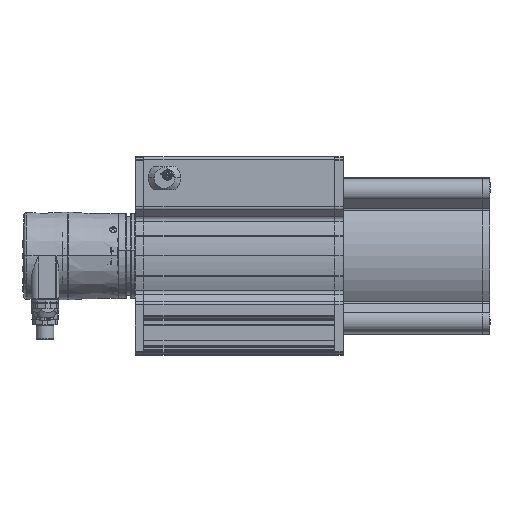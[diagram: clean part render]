
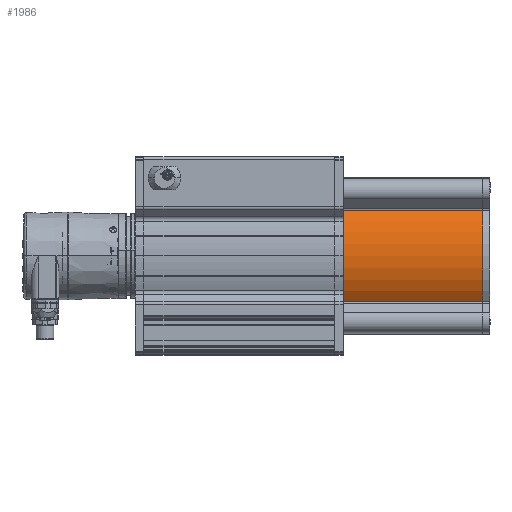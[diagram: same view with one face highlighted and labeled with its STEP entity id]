
A CAD part, top view. The second image highlights one B-rep face of the part: STEP entity #1986.
In plain terms, the highlighted cylindrical face has radius 53.25 mm (diameter 106.5 mm), a partial arc.
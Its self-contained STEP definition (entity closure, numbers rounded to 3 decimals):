
#1986 = ADVANCED_FACE ( 'NONE', ( #97222 ), #97312, .T. ) ;
#1987 = EDGE_LOOP ( 'NONE', ( #1991, #1993, #1996, #2040 ) ) ;
#1991 = ORIENTED_EDGE ( 'NONE', *, *, #86835, .T. ) ;
#1993 = ORIENTED_EDGE ( 'NONE', *, *, #1995, .T. ) ;
#1995 = EDGE_CURVE ( 'NONE', #86700, #86680, #97285, .T. ) ;
#1996 = ORIENTED_EDGE ( 'NONE', *, *, #86679, .T. ) ;
#2040 = ORIENTED_EDGE ( 'NONE', *, *, #2041, .F. ) ;
#2041 = EDGE_CURVE ( 'NONE', #86695, #86676, #5528, .T. ) ;
#5521 = DIRECTION ( 'NONE',  ( 0., -1., 0. ) ) ;
#5523 = DIRECTION ( 'NONE',  ( 1., 0., 0. ) ) ;
#5525 = CARTESIAN_POINT ( 'NONE',  ( 72.294, 60.864, -25.395 ) ) ;
#5527 = AXIS2_PLACEMENT_3D ( 'NONE', #5525, #5523, #5521 ) ;
#5528 = CIRCLE ( 'NONE', #5527, 53.25 ) ;
#14394 = CARTESIAN_POINT ( 'NONE',  ( -22.706, 29.979, 17.983 ) ) ;
#14395 = DIRECTION ( 'NONE',  ( 1., 0., 0. ) ) ;
#14396 = VECTOR ( 'NONE', #14395, 1000. ) ;
#14397 = CARTESIAN_POINT ( 'NONE',  ( -98.586, 29.979, 17.983 ) ) ;
#14398 = LINE ( 'NONE', #14397, #14396 ) ;
#14404 = CARTESIAN_POINT ( 'NONE',  ( 72.294, 29.979, 17.983 ) ) ;
#14412 = CARTESIAN_POINT ( 'NONE',  ( -22.706, 91.749, 17.983 ) ) ;
#14420 = CARTESIAN_POINT ( 'NONE',  ( 72.294, 91.749, 17.983 ) ) ;
#15081 = DIRECTION ( 'NONE',  ( -1., 0., 0. ) ) ;
#15083 = VECTOR ( 'NONE', #15081, 1000. ) ;
#15085 = CARTESIAN_POINT ( 'NONE',  ( -98.586, 91.749, 17.983 ) ) ;
#15094 = LINE ( 'NONE', #15085, #15083 ) ;
#86676 = VERTEX_POINT ( 'NONE', #14404 ) ;
#86679 = EDGE_CURVE ( 'NONE', #86680, #86676, #14398, .T. ) ;
#86680 = VERTEX_POINT ( 'NONE', #14394 ) ;
#86695 = VERTEX_POINT ( 'NONE', #14420 ) ;
#86700 = VERTEX_POINT ( 'NONE', #14412 ) ;
#86835 = EDGE_CURVE ( 'NONE', #86695, #86700, #15094, .T. ) ;
#97222 = FACE_OUTER_BOUND ( 'NONE', #1987, .T. ) ;
#97277 = DIRECTION ( 'NONE',  ( 0., 1., 0. ) ) ;
#97280 = DIRECTION ( 'NONE',  ( 1., 0., 0. ) ) ;
#97281 = CARTESIAN_POINT ( 'NONE',  ( -22.706, 60.864, -25.395 ) ) ;
#97283 = AXIS2_PLACEMENT_3D ( 'NONE', #97281, #97280, #97277 ) ;
#97285 = CIRCLE ( 'NONE', #97283, 53.25 ) ;
#97295 = DIRECTION ( 'NONE',  ( 0., -1., 0. ) ) ;
#97297 = DIRECTION ( 'NONE',  ( -1., 0., 0. ) ) ;
#97299 = CARTESIAN_POINT ( 'NONE',  ( -98.586, 60.864, -25.395 ) ) ;
#97301 = AXIS2_PLACEMENT_3D ( 'NONE', #97299, #97297, #97295 ) ;
#97312 = CYLINDRICAL_SURFACE ( 'NONE', #97301, 53.25 ) ;
